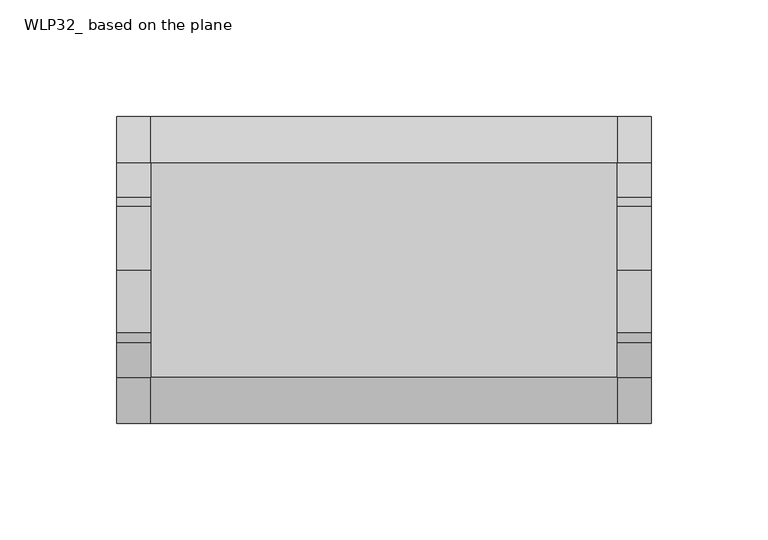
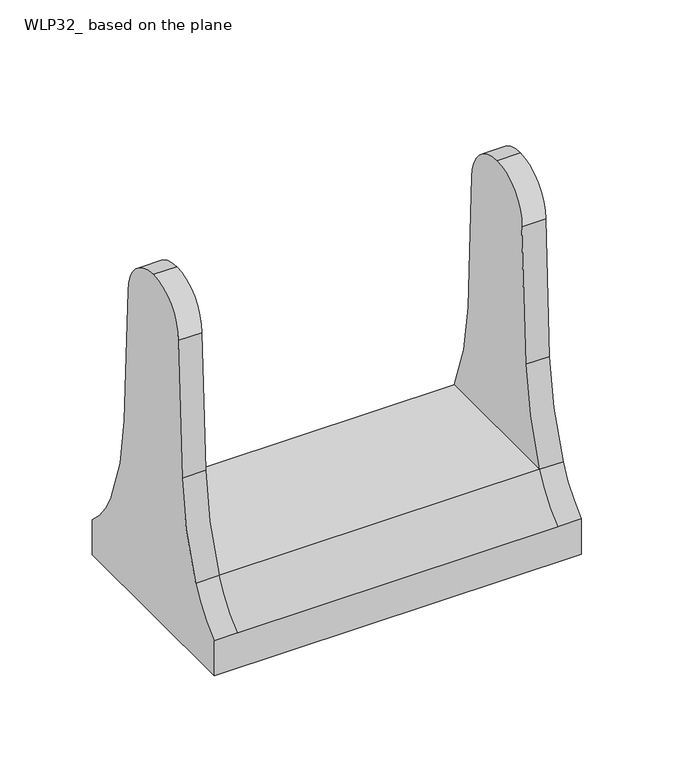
"""IFC4 building model written with IfcOpenShell, lengths in millimetres: light fixture geometry, WLP32_ based on the plane : WLP32-80W-T40."""

from ifc_helpers import new_model, si_unit, point, frame, frame_2d, origin, origin_2d, place, context, project, spatial, polyline, circle_curve, trimmed, segment, composite_curve, outline, extrude, source, transform, mapped, element, save
from ifc_brep_helpers import plane_surface, cylinder_surface, revolved_surface, advanced_brep


def wlp32_based_on_the_plane_fb6c3ec3(model_context):
    return source(origin(), model_context, "Body", "SolidModel", [
        extrude(outline(polyline([(-77.4999981, 46.0837738), (77.4999252, 46.0837738), (77.4999252, -46.0837738), (-77.4999981, -46.0837738), (-77.4999981, 46.0837738)]), holes=[composite_curve([segment(polyline([(-9.5000019, -23.1246944), (-9.5000019, -33.4999695)]), True, "CONTINUOUS"), segment(trimmed(circle_curve(frame_2d((0.0, -33.4999695)), 9.5000019), [point((-9.5000019, -33.4999695))], [point((9.5000019, -33.4999695))], True, "CARTESIAN"), True, "CONTINUOUS"), segment(polyline([(9.5000019, -33.4999695), (9.5000019, -23.1246944)]), True, "CONTINUOUS"), segment(trimmed(circle_curve(origin_2d(), 25.0000305), [point((9.5000019, -23.1246944))], [point((-9.5000019, -23.1246944))], True, "CARTESIAN"), True, "CONTINUOUS")], self_intersect=False), composite_curve([segment(trimmed(circle_curve(frame_2d((67.5000019, 40.0208969)), 2.479126), [point((67.5000019, 37.5417709))], [point((67.5000019, 42.5000229))], True, "CARTESIAN"), True, "CONTINUOUS"), segment(polyline([(67.5000019, 42.5000229), (61.4419666, 42.5000229)]), True, "CONTINUOUS"), segment(trimmed(circle_curve(frame_2d((61.4419666, 40.0208969)), 2.479126), [point((61.4419666, 42.5000229))], [point((61.4419666, 37.5417709))], True, "CARTESIAN"), True, "CONTINUOUS"), segment(polyline([(61.4419666, 37.5417709), (67.5000019, 37.5417709)]), True, "CONTINUOUS")], self_intersect=False), composite_curve([segment(polyline([(67.5000019, -37.5417709), (61.4419666, -37.5417709)]), True, "CONTINUOUS"), segment(trimmed(circle_curve(frame_2d((61.4419666, -40.0208969)), 2.479126), [point((61.4419666, -37.5417709))], [point((61.4419666, -42.5000229))], True, "CARTESIAN"), True, "CONTINUOUS"), segment(polyline([(61.4419666, -42.5000229), (67.5000019, -42.5000229)]), True, "CONTINUOUS"), segment(trimmed(circle_curve(frame_2d((67.5000019, -40.0208969)), 2.479126), [point((67.5000019, -42.5000229))], [point((67.5000019, -37.5417709))], True, "CARTESIAN"), True, "CONTINUOUS")], self_intersect=False), composite_curve([segment(polyline([(-67.5000019, 37.5417709), (-61.4419666, 37.5417709)]), True, "CONTINUOUS"), segment(trimmed(circle_curve(frame_2d((-61.4419666, 40.0208969)), 2.479126), [point((-61.4419666, 37.5417709))], [point((-61.4419666, 42.5000229))], True, "CARTESIAN"), True, "CONTINUOUS"), segment(polyline([(-61.4419666, 42.5000229), (-67.5000019, 42.5000229)]), True, "CONTINUOUS"), segment(trimmed(circle_curve(frame_2d((-67.5000019, 40.0208969)), 2.479126), [point((-67.5000019, 42.5000229))], [point((-67.5000019, 37.5417709))], True, "CARTESIAN"), True, "CONTINUOUS")], self_intersect=False), composite_curve([segment(trimmed(circle_curve(frame_2d((-67.5000019, -40.0208969)), 2.479126), [point((-67.5000019, -37.5417709))], [point((-67.5000019, -42.5000229))], True, "CARTESIAN"), True, "CONTINUOUS"), segment(polyline([(-67.5000019, -42.5000229), (-61.4419666, -42.5000229)]), True, "CONTINUOUS"), segment(trimmed(circle_curve(frame_2d((-61.4419666, -40.0208969)), 2.479126), [point((-61.4419666, -42.5000229))], [point((-61.4419666, -37.5417709))], True, "CARTESIAN"), True, "CONTINUOUS"), segment(polyline([(-61.4419666, -37.5417709), (-67.5000019, -37.5417709)]), True, "CONTINUOUS")], self_intersect=False), composite_curve([segment(trimmed(circle_curve(frame_2d((21.5243387, 27.8844687)), 2.4983204), [point((22.7380905, 30.068138))], [point((19.7538223, 26.1218353))], True, "CARTESIAN"), True, "CONTINUOUS"), segment(trimmed(circle_curve(origin_2d(), 32.7500194), [point((19.7538223, 26.1218353))], [point((26.028187, 19.8770535))], False, "CARTESIAN"), True, "CONTINUOUS"), segment(trimmed(circle_curve(frame_2d((27.8943475, 21.5093333)), 2.4792927), [point((26.028187, 19.8770535))], [point((29.960342, 22.8799386))], True, "CARTESIAN"), True, "CONTINUOUS"), segment(trimmed(circle_curve(origin_2d(), 37.6976615), [point((29.960342, 22.8799386))], [point((22.7380905, 30.068138))], True, "CARTESIAN"), True, "CONTINUOUS")], self_intersect=False), composite_curve([segment(trimmed(circle_curve(origin_2d(), 41.9438462), [point((25.9620034, 32.9432939))], [point((32.9315562, 25.9768906))], False, "CARTESIAN"), True, "CONTINUOUS"), segment(trimmed(circle_curve(frame_2d((34.7568286, 27.724914)), 2.5272921), [point((32.9315562, 25.9768906))], [point((36.8818491, 29.0929391))], True, "CARTESIAN"), True, "CONTINUOUS"), segment(trimmed(circle_curve(origin_2d(), 46.9752052), [point((36.8818491, 29.0929391))], [point((29.0762661, 36.8949949))], True, "CARTESIAN"), True, "CONTINUOUS"), segment(trimmed(circle_curve(frame_2d((27.7326932, 34.750843)), 2.5303312), [point((29.0762661, 36.8949949))], [point((25.9620034, 32.9432939))], True, "CARTESIAN"), True, "CONTINUOUS")], self_intersect=False), composite_curve([segment(trimmed(circle_curve(origin_2d(), 37.6976615), [point((-22.7380905, 30.068138))], [point((-29.960342, 22.8799386))], True, "CARTESIAN"), True, "CONTINUOUS"), segment(trimmed(circle_curve(frame_2d((-27.8943475, 21.5093333)), 2.4792927), [point((-29.960342, 22.8799386))], [point((-26.028187, 19.8770535))], True, "CARTESIAN"), True, "CONTINUOUS"), segment(trimmed(circle_curve(origin_2d(), 32.7500194), [point((-26.028187, 19.8770535))], [point((-19.7538223, 26.1218353))], False, "CARTESIAN"), True, "CONTINUOUS"), segment(trimmed(circle_curve(frame_2d((-21.5243387, 27.8844687)), 2.4983204), [point((-19.7538223, 26.1218353))], [point((-22.7380905, 30.068138))], True, "CARTESIAN"), True, "CONTINUOUS")], self_intersect=False), composite_curve([segment(trimmed(circle_curve(frame_2d((-27.7326932, 34.750843)), 2.5303312), [point((-25.9620034, 32.9432939))], [point((-29.0762661, 36.8949949))], True, "CARTESIAN"), True, "CONTINUOUS"), segment(trimmed(circle_curve(origin_2d(), 46.9752052), [point((-29.0762661, 36.8949949))], [point((-36.8818491, 29.0929391))], True, "CARTESIAN"), True, "CONTINUOUS"), segment(trimmed(circle_curve(frame_2d((-34.7568286, 27.724914)), 2.5272921), [point((-36.8818491, 29.0929391))], [point((-32.9315562, 25.9768906))], True, "CARTESIAN"), True, "CONTINUOUS"), segment(trimmed(circle_curve(origin_2d(), 41.9438462), [point((-32.9315562, 25.9768906))], [point((-25.9620034, 32.9432939))], False, "CARTESIAN"), True, "CONTINUOUS")], self_intersect=False), composite_curve([segment(trimmed(circle_curve(origin_2d(), 37.6976615), [point((22.7380905, -30.068138))], [point((29.960342, -22.8799386))], True, "CARTESIAN"), True, "CONTINUOUS"), segment(trimmed(circle_curve(frame_2d((27.8943475, -21.5093333)), 2.4792927), [point((29.960342, -22.8799386))], [point((26.028187, -19.8770535))], True, "CARTESIAN"), True, "CONTINUOUS"), segment(trimmed(circle_curve(origin_2d(), 32.7500194), [point((26.028187, -19.8770535))], [point((19.7538223, -26.1218353))], False, "CARTESIAN"), True, "CONTINUOUS"), segment(trimmed(circle_curve(frame_2d((21.5243387, -27.8844687)), 2.4983204), [point((19.7538223, -26.1218353))], [point((22.7380905, -30.068138))], True, "CARTESIAN"), True, "CONTINUOUS")], self_intersect=False), composite_curve([segment(trimmed(circle_curve(frame_2d((27.7326932, -34.750843)), 2.5303312), [point((25.9620034, -32.9432939))], [point((29.0762661, -36.8949949))], True, "CARTESIAN"), True, "CONTINUOUS"), segment(trimmed(circle_curve(origin_2d(), 46.9752052), [point((29.0762661, -36.8949949))], [point((36.8818491, -29.0929391))], True, "CARTESIAN"), True, "CONTINUOUS"), segment(trimmed(circle_curve(frame_2d((34.7568286, -27.724914)), 2.5272921), [point((36.8818491, -29.0929391))], [point((32.9315562, -25.9768906))], True, "CARTESIAN"), True, "CONTINUOUS"), segment(trimmed(circle_curve(origin_2d(), 41.9438462), [point((32.9315562, -25.9768906))], [point((25.9620034, -32.9432939))], False, "CARTESIAN"), True, "CONTINUOUS")], self_intersect=False), composite_curve([segment(trimmed(circle_curve(frame_2d((-21.5243387, -27.8844687)), 2.4983204), [point((-22.7380905, -30.068138))], [point((-19.7538223, -26.1218353))], True, "CARTESIAN"), True, "CONTINUOUS"), segment(trimmed(circle_curve(origin_2d(), 32.7500194), [point((-19.7538223, -26.1218353))], [point((-26.028187, -19.8770535))], False, "CARTESIAN"), True, "CONTINUOUS"), segment(trimmed(circle_curve(frame_2d((-27.8943475, -21.5093333)), 2.4792927), [point((-26.028187, -19.8770535))], [point((-29.960342, -22.8799386))], True, "CARTESIAN"), True, "CONTINUOUS"), segment(trimmed(circle_curve(origin_2d(), 37.6976615), [point((-29.960342, -22.8799386))], [point((-22.7380905, -30.068138))], True, "CARTESIAN"), True, "CONTINUOUS")], self_intersect=False), composite_curve([segment(trimmed(circle_curve(origin_2d(), 41.9438462), [point((-25.9620034, -32.9432939))], [point((-32.9315562, -25.9768906))], False, "CARTESIAN"), True, "CONTINUOUS"), segment(trimmed(circle_curve(frame_2d((-34.7568286, -27.724914)), 2.5272921), [point((-32.9315562, -25.9768906))], [point((-36.8818491, -29.0929391))], True, "CARTESIAN"), True, "CONTINUOUS"), segment(trimmed(circle_curve(origin_2d(), 46.9752052), [point((-36.8818491, -29.0929391))], [point((-29.0762661, -36.8949949))], True, "CARTESIAN"), True, "CONTINUOUS"), segment(trimmed(circle_curve(frame_2d((-27.7326932, -34.750843)), 2.5303312), [point((-29.0762661, -36.8949949))], [point((-25.9620034, -32.9432939))], True, "CARTESIAN"), True, "CONTINUOUS")], self_intersect=False)]), frame((0.0, 0.0, 4.0887742), z_axis=(0.0, 0.0, 1.0), x_axis=(1.0, 0.0, 0.0)), (0.0, 0.0, 1.0), 3.4449947),
        advanced_brep(
        [(-114.696875, -65.88125, 0.0), (-114.696875, 65.88125, 0.0), (114.696875, 65.88125, 0.0), (114.696875, -65.88125, 0.0), (-100.0000057, -46.0837738, 0.0), (100.0000057, -46.0837738, 0.0), (100.0000057, 46.0837738, 0.0), (-100.0000057, 46.0837738, 0.0), (-100.0000057, 65.88125, 23.1485712), (100.0000057, 65.88125, 23.1485712), (114.696875, 65.88125, 23.1485712), (-114.696875, 65.88125, 23.1485712), (-100.0000057, 46.0837738, 48.9999928), (100.0000057, 46.0837738, 48.9999928), (100.0000057, -46.0837738, 48.9999928), (-100.0000057, -46.0837738, 48.9999928), (-100.0000057, -65.88125, 23.1485712), (100.0000057, -65.88125, 23.1485712), (-114.696875, -65.88125, 23.1485712), (114.696875, -65.88125, 23.1485712), (-100.0000057, 46.0837738, 20.4999812), (100.0000057, 46.0837738, 20.4999812), (100.0000057, -46.0837738, 20.4999812), (-100.0000057, -46.0837738, 20.4999812), (114.696875, 46.0837738, 48.9999928), (114.696875, 31.1662216, 109.409161), (114.696875, 27.1380505, 197.8729798), (114.696875, 0.0, 225.0110303), (114.696875, -27.1380505, 197.8729798), (114.696875, -31.1662216, 109.409161), (114.696875, -46.0837738, 48.9999928), (100.0000057, -31.1662216, 109.409161), (100.0000057, -27.1380505, 197.8729798), (100.0000057, 0.0, 225.0110303), (100.0000057, 27.1380505, 197.8729798), (100.0000057, 31.1662216, 109.409161), (-100.0000057, 31.1662216, 109.409161), (-100.0000057, 27.1380505, 197.8729798), (-100.0000057, 0.0, 225.0110303), (-100.0000057, -27.1380505, 197.8729798), (-100.0000057, -31.1662216, 109.409161), (-114.696875, -46.0837738, 48.9999928), (-114.696875, -31.1662216, 109.409161), (-114.696875, -27.1380505, 197.8729798), (-114.696875, 0.0, 225.0110303), (-114.696875, 27.1380505, 197.8729798), (-114.696875, 31.1662216, 109.409161), (-114.696875, 46.0837738, 48.9999928)],
        [
            (0, 1),
            (1, 2),
            (2, 3),
            (3, 0),
            (4, 5),
            (5, 6),
            (6, 7),
            (7, 4),
            (8, 9),
            (9, 10),
            (10, 2),
            (1, 11),
            (11, 8),
            (8, 12, circle_curve(frame((-100.0000057, 111.2522031, 78.4007897), z_axis=(-1.0, 0.0, 0.0), x_axis=(0.0, 0.0, -1.0)), 71.4935734)),
            (12, 13),
            (13, 9, circle_curve(frame((100.0000057, 111.2522031, 78.4007897), z_axis=(1.0, 0.0, 0.0), x_axis=(0.0, 0.0, -1.0)), 71.4935734)),
            (14, 15),
            (15, 16, circle_curve(frame((-100.0000057, -111.2522031, 78.4007897), z_axis=(-1.0, 0.0, 0.0), x_axis=(0.0, 0.0, -1.0)), 71.4935734)),
            (16, 17),
            (17, 14, circle_curve(frame((100.0000057, -111.2522031, 78.4007897), z_axis=(1.0, 0.0, 0.0), x_axis=(0.0, 0.0, -1.0)), 71.4935734)),
            (16, 18),
            (18, 0),
            (3, 19),
            (19, 17),
            (12, 15),
            (14, 13),
            (20, 21),
            (21, 22),
            (22, 23),
            (23, 20),
            (22, 5),
            (4, 23),
            (20, 7),
            (6, 21),
            (10, 24, circle_curve(frame((114.696875, 111.2522031, 78.4007897), z_axis=(-1.0, 0.0, 0.0), x_axis=(0.0, 0.0, -1.0)), 71.4935734)),
            (24, 25, circle_curve(frame((114.696875, 203.0134777, 119.7989735), z_axis=(-1.0, 0.0, 0.0), x_axis=(0.0, 0.0, -1.0)), 172.1610514)),
            (25, 26, circle_curve(frame((114.696875, 3000.9421601, 288.9605588), z_axis=(-1.0, 0.0, 0.0), x_axis=(0.0, 0.0, -1.0)), 2975.1987882)),
            (26, 27, circle_curve(frame((114.696875, 0.0, 197.8729798), z_axis=(1.0, 0.0, 0.0), x_axis=(0.0, 0.0, -1.0)), 27.1380505)),
            (27, 28, circle_curve(frame((114.696875, 0.0, 197.8729798), z_axis=(1.0, 0.0, 0.0), x_axis=(0.0, 0.0, -1.0)), 27.1380505)),
            (28, 29, circle_curve(frame((114.696875, -3000.9421601, 288.9605588), z_axis=(-1.0, 0.0, 0.0), x_axis=(0.0, 0.0, -1.0)), 2975.1987882)),
            (29, 30, circle_curve(frame((114.696875, -203.0134777, 119.7989735), z_axis=(-1.0, 0.0, 0.0), x_axis=(0.0, 0.0, -1.0)), 172.1610514)),
            (30, 19, circle_curve(frame((114.696875, -111.2522031, 78.4007897), z_axis=(-1.0, 0.0, 0.0), x_axis=(0.0, 0.0, -1.0)), 71.4935734)),
            (14, 31, circle_curve(frame((100.0000057, -203.0134777, 119.7989735), z_axis=(1.0, 0.0, 0.0), x_axis=(0.0, 0.0, -1.0)), 172.1610514)),
            (31, 32, circle_curve(frame((100.0000057, -3000.9421601, 288.9605588), z_axis=(1.0, 0.0, 0.0), x_axis=(0.0, 0.0, -1.0)), 2975.1987882)),
            (32, 33, circle_curve(frame((100.0000057, 0.0, 197.8729798), z_axis=(-1.0, 0.0, 0.0), x_axis=(0.0, 0.0, -1.0)), 27.1380505)),
            (33, 34, circle_curve(frame((100.0000057, 0.0, 197.8729798), z_axis=(-1.0, 0.0, 0.0), x_axis=(0.0, 0.0, -1.0)), 27.1380505)),
            (34, 35, circle_curve(frame((100.0000057, 3000.9421601, 288.9605588), z_axis=(1.0, 0.0, 0.0), x_axis=(0.0, 0.0, -1.0)), 2975.1987882)),
            (35, 13, circle_curve(frame((100.0000057, 203.0134777, 119.7989735), z_axis=(1.0, 0.0, 0.0), x_axis=(0.0, 0.0, -1.0)), 172.1610514)),
            (13, 24),
            (35, 25),
            (29, 31),
            (14, 30),
            (12, 36, circle_curve(frame((-100.0000057, 203.0134777, 119.7989735), z_axis=(-1.0, 0.0, 0.0), x_axis=(0.0, 0.0, -1.0)), 172.1610514)),
            (36, 37, circle_curve(frame((-100.0000057, 3000.9421601, 288.9605588), z_axis=(-1.0, 0.0, 0.0), x_axis=(0.0, 0.0, -1.0)), 2975.1987882)),
            (37, 38, circle_curve(frame((-100.0000057, 0.0, 197.8729798), z_axis=(1.0, 0.0, 0.0), x_axis=(0.0, 0.0, -1.0)), 27.1380505)),
            (38, 39, circle_curve(frame((-100.0000057, 0.0, 197.8729798), z_axis=(1.0, 0.0, 0.0), x_axis=(0.0, 0.0, -1.0)), 27.1380505)),
            (39, 40, circle_curve(frame((-100.0000057, -3000.9421601, 288.9605588), z_axis=(-1.0, 0.0, 0.0), x_axis=(0.0, 0.0, -1.0)), 2975.1987882)),
            (40, 15, circle_curve(frame((-100.0000057, -203.0134777, 119.7989735), z_axis=(-1.0, 0.0, 0.0), x_axis=(0.0, 0.0, -1.0)), 172.1610514)),
            (18, 41, circle_curve(frame((-114.696875, -111.2522031, 78.4007897), z_axis=(1.0, 0.0, 0.0), x_axis=(0.0, 0.0, -1.0)), 71.4935734)),
            (41, 42, circle_curve(frame((-114.696875, -203.0134777, 119.7989735), z_axis=(1.0, 0.0, 0.0), x_axis=(0.0, 0.0, -1.0)), 172.1610514)),
            (42, 43, circle_curve(frame((-114.696875, -3000.9421601, 288.9605588), z_axis=(1.0, 0.0, 0.0), x_axis=(0.0, 0.0, -1.0)), 2975.1987882)),
            (43, 44, circle_curve(frame((-114.696875, 0.0, 197.8729798), z_axis=(-1.0, 0.0, 0.0), x_axis=(0.0, 0.0, -1.0)), 27.1380505)),
            (44, 45, circle_curve(frame((-114.696875, 0.0, 197.8729798), z_axis=(-1.0, 0.0, 0.0), x_axis=(0.0, 0.0, -1.0)), 27.1380505)),
            (45, 46, circle_curve(frame((-114.696875, 3000.9421601, 288.9605588), z_axis=(1.0, 0.0, 0.0), x_axis=(0.0, 0.0, -1.0)), 2975.1987882)),
            (46, 47, circle_curve(frame((-114.696875, 203.0134777, 119.7989735), z_axis=(1.0, 0.0, 0.0), x_axis=(0.0, 0.0, -1.0)), 172.1610514)),
            (47, 11, circle_curve(frame((-114.696875, 111.2522031, 78.4007897), z_axis=(1.0, 0.0, 0.0), x_axis=(0.0, 0.0, -1.0)), 71.4935734)),
            (47, 12),
            (46, 36),
            (40, 42),
            (41, 15),
            (45, 37),
            (44, 38),
            (43, 39),
            (34, 26),
            (33, 27),
            (32, 28),
        ],
        [
            plane_surface(frame((100.0000057, -65.88125, 0.0), z_axis=(0.0, 0.0, -1.0), x_axis=(-1.0, 0.0, 0.0))),
            plane_surface(frame((100.0000057, 65.88125, 0.0), z_axis=(0.0, 1.0, 0.0), x_axis=(-1.0, 0.0, 0.0))),
            revolved_surface(polyline([(-100.0000057, 111.2522031, 6.907216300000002), (100.0000057, 111.2522031, 6.907216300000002)]), (-100.0000057, 111.2522031, 78.4007897), (-1.0, 0.0, 0.0)),
            revolved_surface(polyline([(-100.0000057, -111.2522031, 6.907216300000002), (100.0000057, -111.2522031, 6.907216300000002)]), (-100.0000057, -111.2522031, 78.4007897), (-1.0, 0.0, 0.0)),
            plane_surface(frame((100.0000057, -65.88125, 23.1485712), z_axis=(0.0, -1.0, 0.0), x_axis=(-1.0, 0.0, 0.0))),
            plane_surface(frame((100.0000057, 46.0837738, 48.9999928), z_axis=(0.0, 0.0, 1.0), x_axis=(-1.0, 0.0, 0.0))),
            plane_surface(frame((-100.0000057, 46.0837738, 20.4999812), z_axis=(0.0, 0.0, -1.0), x_axis=(0.0, -1.0, 0.0))),
            plane_surface(frame((-100.0000057, -46.0837738, 20.4999812), z_axis=(0.0, 1.0, 0.0), x_axis=(0.0, 0.0, -1.0))),
            plane_surface(frame((100.0000057, 46.0837738, 20.4999812), z_axis=(0.0, -1.0, 0.0), x_axis=(0.0, 0.0, -1.0))),
            plane_surface(frame((114.696875, 65.88125, 0.0), z_axis=(1.0, 0.0, 0.0), x_axis=(0.0, 1.0, 0.0))),
            plane_surface(frame((100.0000057, 65.88125, 0.0), z_axis=(-1.0, 0.0, 0.0), x_axis=(0.0, -1.0, 0.0))),
            revolved_surface(polyline([(100.0000057, 111.2522031, 6.907216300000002), (114.696875, 111.2522031, 6.907216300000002)]), (100.0000057, 111.2522031, 78.4007897), (-1.0, 0.0, 0.0)),
            revolved_surface(polyline([(100.0000057, 203.0134777, -52.36207789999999), (114.696875, 203.0134777, -52.36207789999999)]), (100.0000057, 203.0134777, 119.7989735), (-1.0, 0.0, 0.0)),
            revolved_surface(polyline([(100.0000057, -203.0134777, -52.36207789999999), (114.696875, -203.0134777, -52.36207789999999)]), (100.0000057, -203.0134777, 119.7989735), (-1.0, 0.0, 0.0)),
            revolved_surface(polyline([(100.0000057, -111.2522031, 6.907216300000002), (114.696875, -111.2522031, 6.907216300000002)]), (100.0000057, -111.2522031, 78.4007897), (-1.0, 0.0, 0.0)),
            plane_surface(frame((-100.0000057, 65.88125, 0.0), z_axis=(1.0, 0.0, 0.0), x_axis=(0.0, 1.0, 0.0))),
            plane_surface(frame((-114.696875, 65.88125, 0.0), z_axis=(-1.0, 0.0, 0.0), x_axis=(0.0, -1.0, 0.0))),
            revolved_surface(polyline([(-114.696875, 111.2522031, 6.907216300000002), (-100.0000057, 111.2522031, 6.907216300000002)]), (-114.696875, 111.2522031, 78.4007897), (-1.0, 0.0, 0.0)),
            revolved_surface(polyline([(-114.696875, 203.0134777, -52.36207789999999), (-100.0000057, 203.0134777, -52.36207789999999)]), (-114.696875, 203.0134777, 119.7989735), (-1.0, 0.0, 0.0)),
            revolved_surface(polyline([(-114.696875, -203.0134777, -52.36207789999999), (-100.0000057, -203.0134777, -52.36207789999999)]), (-114.696875, -203.0134777, 119.7989735), (-1.0, 0.0, 0.0)),
            revolved_surface(polyline([(-114.696875, -111.2522031, 6.907216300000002), (-100.0000057, -111.2522031, 6.907216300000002)]), (-114.696875, -111.2522031, 78.4007897), (-1.0, 0.0, 0.0)),
            revolved_surface(polyline([(-114.696875, 3000.9421601, -2686.2382294), (-100.0000057, 3000.9421601, -2686.2382294)]), (-114.696875, 3000.9421601, 288.9605588), (-1.0, 0.0, 0.0)),
            cylinder_surface(frame((-114.696875, 0.0, 197.8729798), z_axis=(1.0, 0.0, 0.0), x_axis=(0.0, 0.0, -1.0)), 27.1380505),
            revolved_surface(polyline([(-114.696875, -3000.9421601, -2686.2382294), (-100.0000057, -3000.9421601, -2686.2382294)]), (-114.696875, -3000.9421601, 288.9605588), (-1.0, 0.0, 0.0)),
            revolved_surface(polyline([(100.0000057, 3000.9421601, -2686.2382294), (114.696875, 3000.9421601, -2686.2382294)]), (100.0000057, 3000.9421601, 288.9605588), (-1.0, 0.0, 0.0)),
            cylinder_surface(frame((100.0000057, 0.0, 197.8729798), z_axis=(1.0, 0.0, 0.0), x_axis=(0.0, 0.0, -1.0)), 27.1380505),
            revolved_surface(polyline([(100.0000057, -3000.9421601, -2686.2382294), (114.696875, -3000.9421601, -2686.2382294)]), (100.0000057, -3000.9421601, 288.9605588), (-1.0, 0.0, 0.0)),
        ],
        [
            (0, [[1, 2, 3, 4], [5, 6, 7, 8]]),
            (1, [[9, 10, 11, -2, 12, 13]]),
            (2, [[-9, 14, 15, 16]]),
            (3, [[17, 18, 19, 20]]),
            (4, [[-19, 21, 22, -4, 23, 24]]),
            (5, [[-15, 25, -17, 26]]),
            (6, [[27, 28, 29, 30]]),
            (7, [[-29, 31, -5, 32]]),
            (8, [[-27, 33, -7, 34]]),
            (9, [[-3, -11, 35, 36, 37, 38, 39, 40, 41, 42, -23]]),
            (10, [[-6, -31, -28, -34]]),
            (10, [[43, 44, 45, 46, 47, 48, -26]]),
            (11, [[-35, -10, -16, 49]]),
            (12, [[-36, -49, -48, 50]]),
            (13, [[-41, 51, -43, 52]]),
            (14, [[-42, -52, -20, -24]]),
            (15, [[-8, -33, -30, -32]]),
            (15, [[53, 54, 55, 56, 57, 58, -25]]),
            (16, [[-22, 59, 60, 61, 62, 63, 64, 65, 66, -12, -1]]),
            (17, [[-66, 67, -14, -13]]),
            (18, [[-53, -67, -65, 68]]),
            (19, [[-58, 69, -60, 70]]),
            (20, [[-59, -21, -18, -70]]),
            (21, [[-54, -68, -64, 71]]),
            (22, [[-55, -71, -63, 72]]),
            (22, [[-56, -72, -62, 73]]),
            (23, [[-57, -73, -61, -69]]),
            (24, [[-37, -50, -47, 74]]),
            (25, [[-38, -74, -46, 75]]),
            (25, [[-39, -75, -45, 76]]),
            (26, [[-40, -76, -44, -51]]),
        ],
    ),
    ])


if __name__ == "__main__":
    model = new_model("IFC4")
    model_context = context("Model", 3, world=origin())
    ifc_project = project(units=[si_unit("LENGTHUNIT", "METRE", prefix="MILLI")], contexts=[model_context])
    site = spatial("IfcSite", under=ifc_project)
    building = spatial("IfcBuilding", under=site)
    placement = place(None, origin())
    wlp32_based_on_the_plane_shape = wlp32_based_on_the_plane_fb6c3ec3(model_context)
    element("IfcLightFixture", 1, ObjectType="WLP32_ based on the plane : WLP32-80W-T40", at=placement, inside=building, context=model_context, shape_type="MappedRepresentation", body=[
        mapped(wlp32_based_on_the_plane_shape, transform((0.0, 0.0, 0.0), x_axis=(1.0, 0.0, 0.0), y_axis=(0.0, 1.0, 0.0), z_axis=(0.0, 0.0, 1.0))),
    ])
    save(model, "model.ifc")
